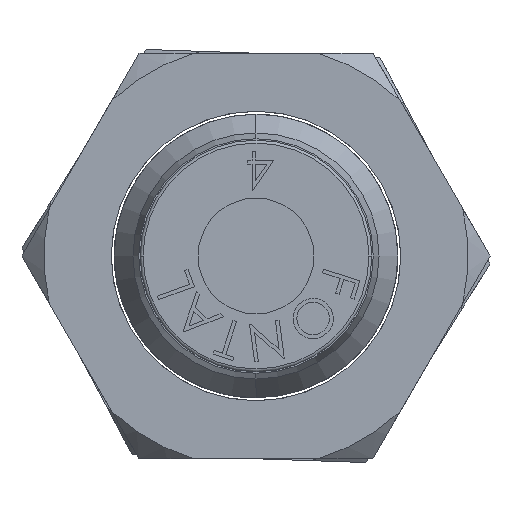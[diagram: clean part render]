
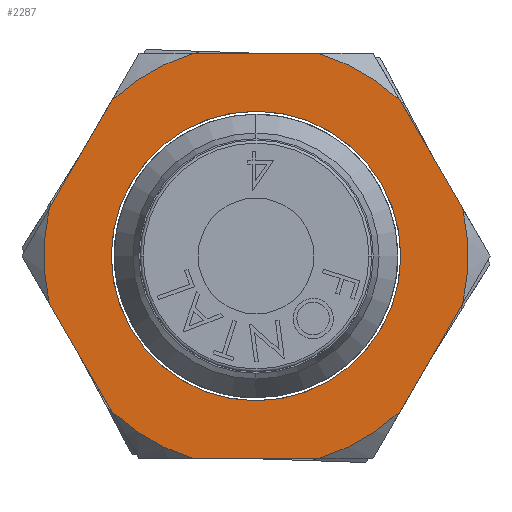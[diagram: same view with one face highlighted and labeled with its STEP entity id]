
A CAD part, left-side view. The second image highlights one B-rep face of the part: STEP entity #2287.
In plain terms, the highlighted planar face has unit normal (-1, 0, 0) as drawn and (0, 0, 1) by its records, which use the part's own axes.
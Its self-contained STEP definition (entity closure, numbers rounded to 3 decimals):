
#61 = VERTEX_POINT ( 'NONE', #5975 ) ;
#343 = EDGE_CURVE ( 'NONE', #2622, #4917, #6829, .T. ) ;
#386 = CARTESIAN_POINT ( 'NONE',  ( 0., 0., 4. ) ) ;
#399 = CARTESIAN_POINT ( 'NONE',  ( 0., 0., 4. ) ) ;
#409 = VERTEX_POINT ( 'NONE', #4025 ) ;
#454 = DIRECTION ( 'NONE',  ( 1., 0., 0. ) ) ;
#618 = DIRECTION ( 'NONE',  ( 1., 0., 0. ) ) ;
#622 = EDGE_CURVE ( 'NONE', #4609, #6615, #5760, .T. ) ;
#701 = VERTEX_POINT ( 'NONE', #6544 ) ;
#743 = EDGE_CURVE ( 'NONE', #4780, #4447, #3465, .T. ) ;
#812 = DIRECTION ( 'NONE',  ( 0., 0., -1. ) ) ;
#836 = DIRECTION ( 'NONE',  ( 1., 0., 0. ) ) ;
#863 = CARTESIAN_POINT ( 'NONE',  ( -5.374, 4.98, 4. ) ) ;
#964 = AXIS2_PLACEMENT_3D ( 'NONE', #2472, #7196, #836 ) ;
#981 = VERTEX_POINT ( 'NONE', #5871 ) ;
#1018 = VECTOR ( 'NONE', #5659, 1000. ) ;
#1065 = DIRECTION ( 'NONE',  ( -0.866, -0.5, 0. ) ) ;
#1103 = CARTESIAN_POINT ( 'NONE',  ( -7., -4.041, 4. ) ) ;
#1119 = DIRECTION ( 'NONE',  ( 0., 0., -1. ) ) ;
#1224 = DIRECTION ( 'NONE',  ( 0., 0., -1. ) ) ;
#1257 = FACE_BOUND ( 'NONE', #4409, .T. ) ;
#1280 = DIRECTION ( 'NONE',  ( 0., 0., 1. ) ) ;
#1286 = AXIS2_PLACEMENT_3D ( 'NONE', #4307, #812, #3075 ) ;
#1348 = CIRCLE ( 'NONE', #1354, 7.327 ) ;
#1354 = AXIS2_PLACEMENT_3D ( 'NONE', #6438, #1224, #5320 ) ;
#1435 = ORIENTED_EDGE ( 'NONE', *, *, #3967, .T. ) ;
#1481 = VERTEX_POINT ( 'NONE', #7228 ) ;
#1528 = ORIENTED_EDGE ( 'NONE', *, *, #5544, .F. ) ;
#1581 = CARTESIAN_POINT ( 'NONE',  ( -7., 4.041, 4. ) ) ;
#1657 = CARTESIAN_POINT ( 'NONE',  ( 7., -4.041, 4. ) ) ;
#1662 = CARTESIAN_POINT ( 'NONE',  ( 0., -8.083, 4. ) ) ;
#1690 = DIRECTION ( 'NONE',  ( 0., -1., 0. ) ) ;
#1794 = EDGE_CURVE ( 'NONE', #61, #4797, #1981, .T. ) ;
#1981 = CIRCLE ( 'NONE', #2569, 7.327 ) ;
#1987 = CARTESIAN_POINT ( 'NONE',  ( -1.626, -7.144, 4. ) ) ;
#1996 = EDGE_CURVE ( 'NONE', #409, #701, #3354, .T. ) ;
#2164 = LINE ( 'NONE', #1103, #6457 ) ;
#2191 = CARTESIAN_POINT ( 'NONE',  ( 0., 8.083, 4. ) ) ;
#2261 = ORIENTED_EDGE ( 'NONE', *, *, #7195, .F. ) ;
#2287 = ADVANCED_FACE ( 'NONE', ( #1257, #5011 ), #2663, .T. ) ;
#2335 = AXIS2_PLACEMENT_3D ( 'NONE', #2425, #1280, #618 ) ;
#2395 = CARTESIAN_POINT ( 'NONE',  ( 5., 0., 4. ) ) ;
#2415 = EDGE_CURVE ( 'NONE', #981, #4917, #1348, .T. ) ;
#2423 = VERTEX_POINT ( 'NONE', #4119 ) ;
#2425 = CARTESIAN_POINT ( 'NONE',  ( 0., 0., 4. ) ) ;
#2472 = CARTESIAN_POINT ( 'NONE',  ( 0., 0., 4. ) ) ;
#2569 = AXIS2_PLACEMENT_3D ( 'NONE', #5741, #1119, #3401 ) ;
#2573 = EDGE_CURVE ( 'NONE', #2622, #3496, #5004, .T. ) ;
#2622 = VERTEX_POINT ( 'NONE', #6957 ) ;
#2663 = PLANE ( 'NONE',  #5674 ) ;
#2707 = VECTOR ( 'NONE', #1690, 1000. ) ;
#2715 = ORIENTED_EDGE ( 'NONE', *, *, #2415, .F. ) ;
#2843 = DIRECTION ( 'NONE',  ( 1., 0., 0. ) ) ;
#2877 = ORIENTED_EDGE ( 'NONE', *, *, #622, .F. ) ;
#2884 = CIRCLE ( 'NONE', #5884, 7.327 ) ;
#2892 = ORIENTED_EDGE ( 'NONE', *, *, #7132, .T. ) ;
#3075 = DIRECTION ( 'NONE',  ( 1., 0., 0. ) ) ;
#3130 = ORIENTED_EDGE ( 'NONE', *, *, #5501, .T. ) ;
#3180 = DIRECTION ( 'NONE',  ( 0., 0., -1. ) ) ;
#3232 = DIRECTION ( 'NONE',  ( 1., 0., 0. ) ) ;
#3354 = LINE ( 'NONE', #4224, #4550 ) ;
#3401 = DIRECTION ( 'NONE',  ( 1., 0., 0. ) ) ;
#3439 = ORIENTED_EDGE ( 'NONE', *, *, #343, .T. ) ;
#3465 = CIRCLE ( 'NONE', #1286, 7.327 ) ;
#3474 = LINE ( 'NONE', #1657, #1018 ) ;
#3491 = DIRECTION ( 'NONE',  ( 0., 0., -1. ) ) ;
#3496 = VERTEX_POINT ( 'NONE', #1987 ) ;
#3701 = EDGE_CURVE ( 'NONE', #6615, #4609, #6210, .T. ) ;
#3760 = DIRECTION ( 'NONE',  ( 0., 0., 1. ) ) ;
#3926 = CARTESIAN_POINT ( 'NONE',  ( 5.374, -4.98, 4. ) ) ;
#3945 = DIRECTION ( 'NONE',  ( 0., 0., -1. ) ) ;
#3950 = AXIS2_PLACEMENT_3D ( 'NONE', #386, #3180, #3232 ) ;
#3967 = EDGE_CURVE ( 'NONE', #981, #1481, #3474, .T. ) ;
#4025 = CARTESIAN_POINT ( 'NONE',  ( 5.374, 4.98, 4. ) ) ;
#4119 = CARTESIAN_POINT ( 'NONE',  ( -1.626, 7.144, 4. ) ) ;
#4169 = CARTESIAN_POINT ( 'NONE',  ( -5., 0., 4. ) ) ;
#4224 = CARTESIAN_POINT ( 'NONE',  ( 7., 4.041, 4. ) ) ;
#4307 = CARTESIAN_POINT ( 'NONE',  ( 0., 0., 4. ) ) ;
#4326 = ORIENTED_EDGE ( 'NONE', *, *, #3701, .F. ) ;
#4409 = EDGE_LOOP ( 'NONE', ( #4326, #2877 ) ) ;
#4447 = VERTEX_POINT ( 'NONE', #6252 ) ;
#4550 = VECTOR ( 'NONE', #6048, 1000. ) ;
#4609 = VERTEX_POINT ( 'NONE', #4169 ) ;
#4672 = DIRECTION ( 'NONE',  ( 1., 0., 0. ) ) ;
#4697 = CARTESIAN_POINT ( 'NONE',  ( 0., 0., 4. ) ) ;
#4780 = VERTEX_POINT ( 'NONE', #5515 ) ;
#4797 = VERTEX_POINT ( 'NONE', #863 ) ;
#4917 = VERTEX_POINT ( 'NONE', #3926 ) ;
#5004 = CIRCLE ( 'NONE', #3950, 7.327 ) ;
#5011 = FACE_OUTER_BOUND ( 'NONE', #6603, .T. ) ;
#5096 = ORIENTED_EDGE ( 'NONE', *, *, #1996, .T. ) ;
#5184 = LINE ( 'NONE', #1581, #2707 ) ;
#5320 = DIRECTION ( 'NONE',  ( 1., 0., 0. ) ) ;
#5485 = VECTOR ( 'NONE', #1065, 1000. ) ;
#5501 = EDGE_CURVE ( 'NONE', #2423, #4797, #6276, .T. ) ;
#5515 = CARTESIAN_POINT ( 'NONE',  ( -5.374, -4.98, 4. ) ) ;
#5544 = EDGE_CURVE ( 'NONE', #2423, #701, #7344, .T. ) ;
#5591 = EDGE_CURVE ( 'NONE', #4780, #3496, #2164, .T. ) ;
#5659 = DIRECTION ( 'NONE',  ( 0., 1., 0. ) ) ;
#5674 = AXIS2_PLACEMENT_3D ( 'NONE', #7220, #3760, #2843 ) ;
#5741 = CARTESIAN_POINT ( 'NONE',  ( 0., 0., 4. ) ) ;
#5760 = CIRCLE ( 'NONE', #964, 5. ) ;
#5769 = DIRECTION ( 'NONE',  ( 0.866, -0.5, 0. ) ) ;
#5797 = ORIENTED_EDGE ( 'NONE', *, *, #1794, .F. ) ;
#5871 = CARTESIAN_POINT ( 'NONE',  ( 7., -2.164, 4. ) ) ;
#5884 = AXIS2_PLACEMENT_3D ( 'NONE', #4697, #3491, #4672 ) ;
#5975 = CARTESIAN_POINT ( 'NONE',  ( -7., 2.164, 4. ) ) ;
#6048 = DIRECTION ( 'NONE',  ( -0.866, 0.5, 0. ) ) ;
#6210 = CIRCLE ( 'NONE', #2335, 5. ) ;
#6252 = CARTESIAN_POINT ( 'NONE',  ( -7., -2.164, 4. ) ) ;
#6276 = LINE ( 'NONE', #2191, #5485 ) ;
#6298 = DIRECTION ( 'NONE',  ( 0.866, 0.5, 0. ) ) ;
#6438 = CARTESIAN_POINT ( 'NONE',  ( 0., 0., 4. ) ) ;
#6457 = VECTOR ( 'NONE', #5769, 1000. ) ;
#6544 = CARTESIAN_POINT ( 'NONE',  ( 1.626, 7.144, 4. ) ) ;
#6603 = EDGE_LOOP ( 'NONE', ( #2715, #1435, #2261, #5096, #1528, #3130, #5797, #2892, #6777, #7485, #6880, #3439 ) ) ;
#6615 = VERTEX_POINT ( 'NONE', #2395 ) ;
#6777 = ORIENTED_EDGE ( 'NONE', *, *, #743, .F. ) ;
#6829 = LINE ( 'NONE', #1662, #7176 ) ;
#6880 = ORIENTED_EDGE ( 'NONE', *, *, #2573, .F. ) ;
#6957 = CARTESIAN_POINT ( 'NONE',  ( 1.626, -7.144, 4. ) ) ;
#7132 = EDGE_CURVE ( 'NONE', #61, #4447, #5184, .T. ) ;
#7176 = VECTOR ( 'NONE', #6298, 1000. ) ;
#7195 = EDGE_CURVE ( 'NONE', #409, #1481, #2884, .T. ) ;
#7196 = DIRECTION ( 'NONE',  ( 0., 0., 1. ) ) ;
#7220 = CARTESIAN_POINT ( 'NONE',  ( 0., 0., 4. ) ) ;
#7228 = CARTESIAN_POINT ( 'NONE',  ( 7., 2.164, 4. ) ) ;
#7344 = CIRCLE ( 'NONE', #7354, 7.327 ) ;
#7354 = AXIS2_PLACEMENT_3D ( 'NONE', #399, #3945, #454 ) ;
#7485 = ORIENTED_EDGE ( 'NONE', *, *, #5591, .T. ) ;
